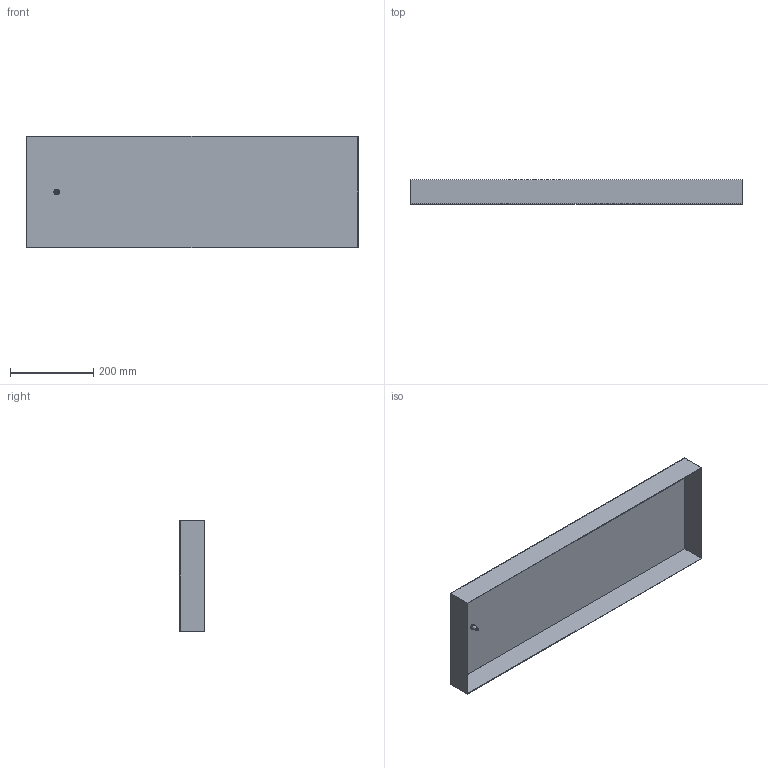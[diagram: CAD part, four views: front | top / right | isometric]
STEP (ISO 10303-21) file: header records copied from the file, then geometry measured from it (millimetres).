
FILE_DESCRIPTION( ( 'STEP AP214' ), '1' );
FILE_NAME( 'p:/temp/worker_138/temp/exporttempdir_1288_407_OtzNy/format_0/CVR0803R5(0).stp', '2021-03-15T15:06:13', ( 'License CC BY-ND 4.0' ), ( 'CADENAS' ), ' ', 'PARTsolutions', ' ' );
FILE_SCHEMA( ( 'AUTOMOTIVE_DESIGN { 1 0 10303 214 1 1 1 1 }' ) );
Length unit declared in the file: millimetre
Products named in the file (1): _CVR0803R5(0)
Bounding box: 798 x 58 x 268 mm (x, y, z)
Volume: 501959.6 mm3; surface area: 671786.9 mm2
Topology: 1 solids, 1 shells, 19 faces, 38 edges, 25 vertices
Faces by surface type: plane 14, cylinder 3, cone 2
Full cylindrical faces by diameter (mm): 8 x1, 9 x1, 14 x1
Entity records: 626 total; most frequent: DIRECTION 80, CARTESIAN_POINT 76, ORIENTED_EDGE 64, EDGE_CURVE 32, AXIS2_PLACEMENT_3D 28, EDGE_LOOP 28, VERTEX_POINT 24, LINE 24
